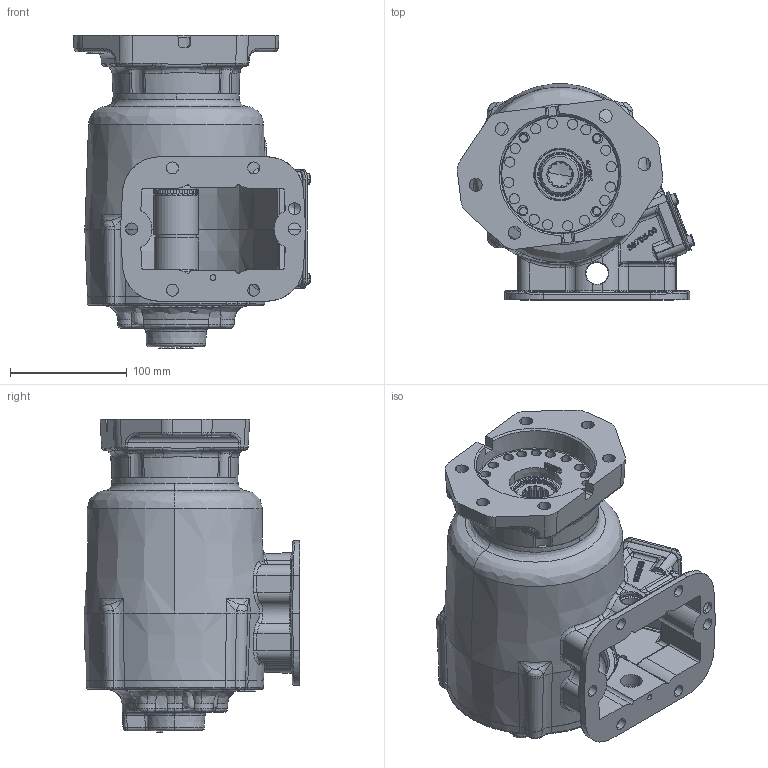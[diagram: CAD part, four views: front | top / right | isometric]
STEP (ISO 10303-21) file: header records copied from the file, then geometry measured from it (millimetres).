
FILE_DESCRIPTION (( 'STEP AP203' ), '1' );
FILE_NAME ('CS6B-XXXXX-H3PX.STEP', '2023-05-18T20:46:37', ( '' ), ( '' ), 'SwSTEP 2.0', 'SolidWorks 2021', '' );
FILE_SCHEMA (( 'CONFIG_CONTROL_DESIGN' ));
Length unit declared in the file: inch
Products named in the file (16): 24T36894; 26t36175; 11T36124-1; 01T37072-01; 16T41119; CS6_8 OUTPUT SHAFTS_06T37090; 14TA3996; 63585; 12T34003; 25T21684; 19T36174; 12T36471; CS6B-XXXXX-H3PX; 63584; 19T41118; 15T36717
Assembly tree (26 placements, depth 3):
  CS6B-XXXXX-H3PX
    01T37072-01
    16T41119
    15T36717
    12T34003
    25T21684  x4
    19T41118  x4
    19T36174  x4
    CS6_8 OUTPUT SHAFTS_06T37090
    11T36124-1
    24T36894
    26t36175  x2
    12T36471  x2
    14TA3996
      63585
      63584
Bounding box: 203.7 x 185.25 x 268.87 mm (x, y, z)
Volume: 1611793.6 mm3; surface area: 450007.6 mm2
Topology: 25 solids, 25 shells, 3145 faces, 8060 edges, 5048 vertices
Faces by surface type: bspline 1161, plane 857, cylinder 652, cone 354, torus 104, sphere 17
Entity records: 180862 total; most frequent: CARTESIAN_POINT 116096, ORIENTED_EDGE 15034, DIRECTION 9727, EDGE_CURVE 7517, VERTEX_POINT 4765, AXIS2_PLACEMENT_3D 3489, EDGE_LOOP 3218, B_SPLINE_CURVE_WITH_KNOTS 2936
